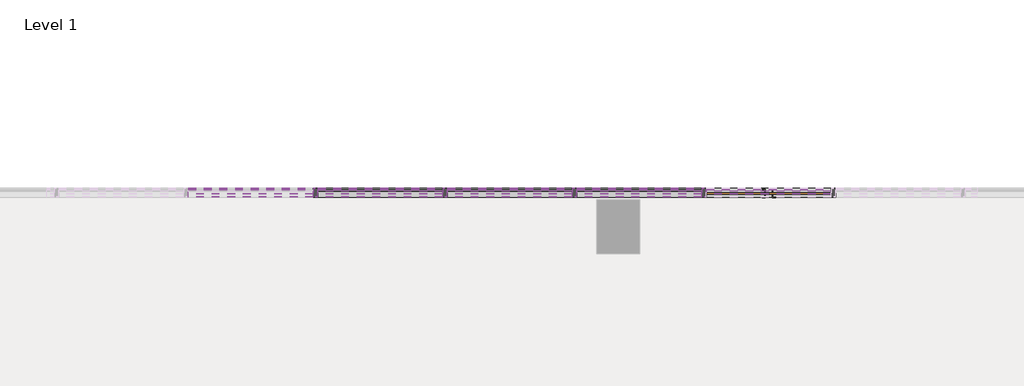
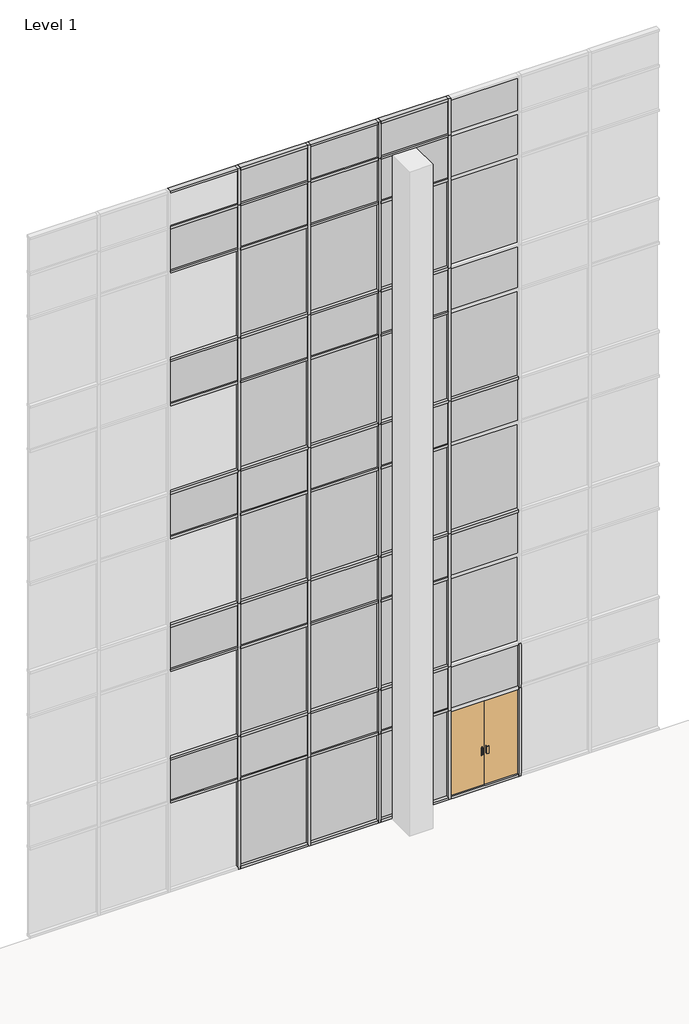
# One storey, part 13 of 23: 80 members, 48 plates, 1 door.
"""IFC4 building model written with IfcOpenShell, lengths in millimetres."""

from ifc_helpers import new_model, si_unit, origin, place, context, project, spatial, transform, mapped, element, save
from components import curtain_wall_dbl_glass_curtain_wall_dbl_glass_821f5a63, member_2b49869a, member_f92b8aa2, member_810865a4, member_f0fea5a5, member_6d5c3e5e, member_9764dd38, system_panel_glazed_14c75400, system_panel_solid_5dfe6f83, system_panel_solid_e25e2004, system_panel_solid_b7551183

model = new_model("IFC4")

# Units and contexts
model_context = context("Model", 3, world=origin())
ifc_project = project(units=[si_unit("LENGTHUNIT", "METRE", prefix="MILLI")], contexts=[model_context])

# Site, building, storey
site = spatial("IfcSite", under=ifc_project)
building = spatial("IfcBuilding", under=site)
storey = spatial("IfcBuildingStorey", under=building, Name="Level 1", Elevation=0.0)

# Door
placement = place(None, origin())
curtain_wall_dbl_glass_curtain_wall_dbl_glass_shape = curtain_wall_dbl_glass_curtain_wall_dbl_glass_821f5a63(model_context)
element("IfcDoor", 1, ObjectType="Curtain Wall Dbl Glass : Curtain Wall Dbl Glass", at=placement, inside=storey, context=model_context, shape_type="MappedRepresentation", body=[
    mapped(curtain_wall_dbl_glass_curtain_wall_dbl_glass_shape, transform((-42498.2373649, 10017.7896508, 63.5), x_axis=(1.0, 0.0, 0.0), y_axis=(0.0, 1.0, 0.0), z_axis=(0.0, 0.0, 1.0))),
])

# Members
member_shape = member_2b49869a(model_context)
element("IfcMember", 2, ObjectType="Rectangular Mullion : 2.5\" x 5\" rectangular", at=placement, inside=storey, context=model_context, shape_type="MappedRepresentation", body=[
    mapped(member_shape, transform((-45241.4373649, 10017.7896508, 2438.4), x_axis=(1.0, 0.0, 0.0), y_axis=(0.0, -1.0, 0.0), z_axis=(0.0, 0.0, -1.0))),
])
element("IfcMember", 3, ObjectType="Rectangular Mullion : 2.5\" x 5\" rectangular", at=placement, inside=storey, context=model_context, shape_type="MappedRepresentation", body=[
    mapped(member_shape, transform((-47070.2373649, 10017.7896508, 2438.4), x_axis=(1.0, 0.0, 0.0), y_axis=(0.0, -1.0, 0.0), z_axis=(0.0, 0.0, -1.0))),
])
element("IfcMember", 4, ObjectType="Rectangular Mullion : 2.5\" x 5\" rectangular", at=placement, inside=storey, context=model_context, shape_type="MappedRepresentation", body=[
    mapped(member_shape, transform((-48899.0373649, 10017.7896508, 2438.4), x_axis=(1.0, 0.0, 0.0), y_axis=(0.0, -1.0, 0.0), z_axis=(0.0, 0.0, -1.0))),
])
member_2_shape = member_f92b8aa2(model_context)
element("IfcMember", 5, ObjectType="Rectangular Mullion : 2.5\" x 5\" rectangular", at=placement, inside=storey, context=model_context, shape_type="MappedRepresentation", body=[
    mapped(member_2_shape, transform((-45241.4373649, 10017.7896508, 18288.0), x_axis=(1.0, 0.0, 0.0), y_axis=(0.0, -1.0, 0.0), z_axis=(0.0, 0.0, -1.0))),
])
element("IfcMember", 6, ObjectType="Rectangular Mullion : 2.5\" x 5\" rectangular", at=placement, inside=storey, context=model_context, shape_type="MappedRepresentation", body=[
    mapped(member_2_shape, transform((-47070.2373649, 10017.7896508, 18288.0), x_axis=(1.0, 0.0, 0.0), y_axis=(0.0, -1.0, 0.0), z_axis=(0.0, 0.0, -1.0))),
])
element("IfcMember", 7, ObjectType="Rectangular Mullion : 2.5\" x 5\" rectangular", at=placement, inside=storey, context=model_context, shape_type="MappedRepresentation", body=[
    mapped(member_2_shape, transform((-48899.0373649, 10017.7896508, 18288.0), x_axis=(1.0, 0.0, 0.0), y_axis=(0.0, -1.0, 0.0), z_axis=(0.0, 0.0, -1.0))),
])
element("IfcMember", 8, ObjectType="Rectangular Mullion : 2.5\" x 5\" rectangular", at=placement, inside=storey, context=model_context, shape_type="MappedRepresentation", body=[
    mapped(member_2_shape, transform((-43412.6373649, 10017.7896508, 18288.0), x_axis=(1.0, 0.0, 0.0), y_axis=(0.0, -1.0, 0.0), z_axis=(0.0, 0.0, -1.0))),
])
member_3_shape = member_810865a4(model_context)
element("IfcMember", 9, ObjectType="Rectangular Mullion : 2.5\" x 5\" rectangular", at=placement, inside=storey, context=model_context, shape_type="MappedRepresentation", body=[
    mapped(member_3_shape, transform((-43412.6373649, 10017.7896508, 10972.8), x_axis=(1.0, 0.0, 0.0), y_axis=(0.0, -1.0, 0.0), z_axis=(0.0, 0.0, -1.0))),
])
element("IfcMember", 10, ObjectType="Rectangular Mullion : 2.5\" x 5\" rectangular", at=placement, inside=storey, context=model_context, shape_type="MappedRepresentation", body=[
    mapped(member_3_shape, transform((-43412.6373649, 10017.7896508, 7315.2), x_axis=(1.0, 0.0, 0.0), y_axis=(0.0, -1.0, 0.0), z_axis=(0.0, 0.0, -1.0))),
])
element("IfcMember", 11, ObjectType="Rectangular Mullion : 2.5\" x 5\" rectangular", at=placement, inside=storey, context=model_context, shape_type="MappedRepresentation", body=[
    mapped(member_3_shape, transform((-43412.6373649, 10017.7896508, 3657.6), x_axis=(1.0, 0.0, 0.0), y_axis=(0.0, -1.0, 0.0), z_axis=(0.0, 0.0, -1.0))),
])
element("IfcMember", 12, ObjectType="Rectangular Mullion : 2.5\" x 5\" rectangular", at=placement, inside=storey, context=model_context, shape_type="MappedRepresentation", body=[
    mapped(member_3_shape, transform((-45241.4373649, 10017.7896508, 14630.4), x_axis=(1.0, 0.0, 0.0), y_axis=(0.0, -1.0, 0.0), z_axis=(0.0, 0.0, -1.0))),
])
element("IfcMember", 13, ObjectType="Rectangular Mullion : 2.5\" x 5\" rectangular", at=placement, inside=storey, context=model_context, shape_type="MappedRepresentation", body=[
    mapped(member_3_shape, transform((-45241.4373649, 10017.7896508, 10972.8), x_axis=(1.0, 0.0, 0.0), y_axis=(0.0, -1.0, 0.0), z_axis=(0.0, 0.0, -1.0))),
])
element("IfcMember", 14, ObjectType="Rectangular Mullion : 2.5\" x 5\" rectangular", at=placement, inside=storey, context=model_context, shape_type="MappedRepresentation", body=[
    mapped(member_3_shape, transform((-45241.4373649, 10017.7896508, 7315.2), x_axis=(1.0, 0.0, 0.0), y_axis=(0.0, -1.0, 0.0), z_axis=(0.0, 0.0, -1.0))),
])
element("IfcMember", 15, ObjectType="Rectangular Mullion : 2.5\" x 5\" rectangular", at=placement, inside=storey, context=model_context, shape_type="MappedRepresentation", body=[
    mapped(member_3_shape, transform((-45241.4373649, 10017.7896508, 3657.6), x_axis=(1.0, 0.0, 0.0), y_axis=(0.0, -1.0, 0.0), z_axis=(0.0, 0.0, -1.0))),
])
element("IfcMember", 16, ObjectType="Rectangular Mullion : 2.5\" x 5\" rectangular", at=placement, inside=storey, context=model_context, shape_type="MappedRepresentation", body=[
    mapped(member_3_shape, transform((-47070.2373649, 10017.7896508, 14630.4), x_axis=(1.0, 0.0, 0.0), y_axis=(0.0, -1.0, 0.0), z_axis=(0.0, 0.0, -1.0))),
])
element("IfcMember", 17, ObjectType="Rectangular Mullion : 2.5\" x 5\" rectangular", at=placement, inside=storey, context=model_context, shape_type="MappedRepresentation", body=[
    mapped(member_3_shape, transform((-47070.2373649, 10017.7896508, 10972.8), x_axis=(1.0, 0.0, 0.0), y_axis=(0.0, -1.0, 0.0), z_axis=(0.0, 0.0, -1.0))),
])
element("IfcMember", 18, ObjectType="Rectangular Mullion : 2.5\" x 5\" rectangular", at=placement, inside=storey, context=model_context, shape_type="MappedRepresentation", body=[
    mapped(member_3_shape, transform((-47070.2373649, 10017.7896508, 7315.2), x_axis=(1.0, 0.0, 0.0), y_axis=(0.0, -1.0, 0.0), z_axis=(0.0, 0.0, -1.0))),
])
element("IfcMember", 19, ObjectType="Rectangular Mullion : 2.5\" x 5\" rectangular", at=placement, inside=storey, context=model_context, shape_type="MappedRepresentation", body=[
    mapped(member_3_shape, transform((-47070.2373649, 10017.7896508, 3657.6), x_axis=(1.0, 0.0, 0.0), y_axis=(0.0, -1.0, 0.0), z_axis=(0.0, 0.0, -1.0))),
])
element("IfcMember", 20, ObjectType="Rectangular Mullion : 2.5\" x 5\" rectangular", at=placement, inside=storey, context=model_context, shape_type="MappedRepresentation", body=[
    mapped(member_3_shape, transform((-48899.0373649, 10017.7896508, 14630.4), x_axis=(1.0, 0.0, 0.0), y_axis=(0.0, -1.0, 0.0), z_axis=(0.0, 0.0, -1.0))),
])
element("IfcMember", 21, ObjectType="Rectangular Mullion : 2.5\" x 5\" rectangular", at=placement, inside=storey, context=model_context, shape_type="MappedRepresentation", body=[
    mapped(member_3_shape, transform((-48899.0373649, 10017.7896508, 10972.8), x_axis=(1.0, 0.0, 0.0), y_axis=(0.0, -1.0, 0.0), z_axis=(0.0, 0.0, -1.0))),
])
element("IfcMember", 22, ObjectType="Rectangular Mullion : 2.5\" x 5\" rectangular", at=placement, inside=storey, context=model_context, shape_type="MappedRepresentation", body=[
    mapped(member_3_shape, transform((-48899.0373649, 10017.7896508, 7315.2), x_axis=(1.0, 0.0, 0.0), y_axis=(0.0, -1.0, 0.0), z_axis=(0.0, 0.0, -1.0))),
])
element("IfcMember", 23, ObjectType="Rectangular Mullion : 2.5\" x 5\" rectangular", at=placement, inside=storey, context=model_context, shape_type="MappedRepresentation", body=[
    mapped(member_3_shape, transform((-48899.0373649, 10017.7896508, 3657.6), x_axis=(1.0, 0.0, 0.0), y_axis=(0.0, -1.0, 0.0), z_axis=(0.0, 0.0, -1.0))),
])
element("IfcMember", 24, ObjectType="Rectangular Mullion : 2.5\" x 5\" rectangular", at=placement, inside=storey, context=model_context, shape_type="MappedRepresentation", body=[
    mapped(member_3_shape, transform((-43412.6373649, 10017.7896508, 14630.4), x_axis=(1.0, 0.0, 0.0), y_axis=(0.0, -1.0, 0.0), z_axis=(0.0, 0.0, -1.0))),
])
member_4_shape = member_f0fea5a5(model_context)
element("IfcMember", 25, ObjectType="Rectangular Mullion : 2.5\" x 5\" rectangular", at=placement, inside=storey, context=model_context, shape_type="MappedRepresentation", body=[
    mapped(member_4_shape, transform((-45241.4373649, 10017.7896508, 0.0), x_axis=(1.0, 0.0, 0.0), y_axis=(0.0, -1.0, 0.0), z_axis=(0.0, 0.0, -1.0))),
])
element("IfcMember", 26, ObjectType="Rectangular Mullion : 2.5\" x 5\" rectangular", at=placement, inside=storey, context=model_context, shape_type="MappedRepresentation", body=[
    mapped(member_4_shape, transform((-47070.2373649, 10017.7896508, 0.0), x_axis=(1.0, 0.0, 0.0), y_axis=(0.0, -1.0, 0.0), z_axis=(0.0, 0.0, -1.0))),
])
element("IfcMember", 27, ObjectType="Rectangular Mullion : 2.5\" x 5\" rectangular", at=placement, inside=storey, context=model_context, shape_type="MappedRepresentation", body=[
    mapped(member_4_shape, transform((-48899.0373649, 10017.7896508, 0.0), x_axis=(1.0, 0.0, 0.0), y_axis=(0.0, -1.0, 0.0), z_axis=(0.0, 0.0, -1.0))),
])
element("IfcMember", 28, ObjectType="Rectangular Mullion : 2.5\" x 5\" rectangular", at=placement, inside=storey, context=model_context, shape_type="MappedRepresentation", body=[
    mapped(member_4_shape, transform((-41583.8373649, 10017.7896508, 0.0), x_axis=(1.0, 0.0, 0.0), y_axis=(0.0, -1.0, 0.0), z_axis=(0.0, 0.0, -1.0))),
])
element("IfcMember", 29, ObjectType="Rectangular Mullion : 2.5\" x 5\" rectangular", at=placement, inside=storey, context=model_context, shape_type="MappedRepresentation", body=[
    mapped(member_4_shape, transform((-43412.6373649, 10017.7896508, 0.0), x_axis=(1.0, 0.0, 0.0), y_axis=(0.0, -1.0, 0.0), z_axis=(0.0, 0.0, -1.0))),
])
element("IfcMember", 30, ObjectType="Rectangular Mullion : 2.5\" x 5\" rectangular", at=placement, inside=storey, context=model_context, shape_type="MappedRepresentation", body=[
    mapped(member_shape, transform((-41583.8373649, 10017.7896508, 2438.4), x_axis=(1.0, 0.0, 0.0), y_axis=(0.0, -1.0, 0.0), z_axis=(0.0, 0.0, -1.0))),
])
element("IfcMember", 31, ObjectType="Rectangular Mullion : 2.5\" x 5\" rectangular", at=placement, inside=storey, context=model_context, shape_type="MappedRepresentation", body=[
    mapped(member_shape, transform((-43412.6373649, 10017.7896508, 2438.4), x_axis=(1.0, 0.0, 0.0), y_axis=(0.0, -1.0, 0.0), z_axis=(0.0, 0.0, -1.0))),
])
member_5_shape = member_6d5c3e5e(model_context)
element("IfcMember", 32, ObjectType="Rectangular Mullion : 2.5\" x 5\" rectangular", at=placement, inside=storey, context=model_context, shape_type="MappedRepresentation", body=[
    mapped(member_5_shape, transform((-43444.3873649, 10017.7896508, 19304.0), x_axis=(0.0, 0.0, 1.0), y_axis=(0.0, -1.0, 0.0), z_axis=(1.0, 0.0, 0.0))),
])
element("IfcMember", 33, ObjectType="Rectangular Mullion : 2.5\" x 5\" rectangular", at=placement, inside=storey, context=model_context, shape_type="MappedRepresentation", body=[
    mapped(member_5_shape, transform((-45273.1873649, 10017.7896508, 19304.0), x_axis=(0.0, 0.0, 1.0), y_axis=(0.0, -1.0, 0.0), z_axis=(1.0, 0.0, 0.0))),
])
element("IfcMember", 34, ObjectType="Rectangular Mullion : 2.5\" x 5\" rectangular", at=placement, inside=storey, context=model_context, shape_type="MappedRepresentation", body=[
    mapped(member_5_shape, transform((-47101.9873649, 10017.7896508, 19304.0), x_axis=(0.0, 0.0, 1.0), y_axis=(0.0, -1.0, 0.0), z_axis=(1.0, 0.0, 0.0))),
])
element("IfcMember", 35, ObjectType="Rectangular Mullion : 2.5\" x 5\" rectangular", at=placement, inside=storey, context=model_context, shape_type="MappedRepresentation", body=[
    mapped(member_5_shape, transform((-48930.7873649, 10017.7896508, 19304.0), x_axis=(0.0, 0.0, 1.0), y_axis=(0.0, -1.0, 0.0), z_axis=(1.0, 0.0, 0.0))),
])
member_6_shape = member_9764dd38(model_context)
element("IfcMember", 36, ObjectType="Rectangular Mullion : 2.5\" x 5\" rectangular", at=placement, inside=storey, context=model_context, shape_type="MappedRepresentation", body=[
    mapped(member_6_shape, transform((-43444.3873649, 10017.7896508, 17068.8), x_axis=(0.0, 0.0, 1.0), y_axis=(0.0, -1.0, 0.0), z_axis=(1.0, 0.0, 0.0))),
])
element("IfcMember", 37, ObjectType="Rectangular Mullion : 2.5\" x 5\" rectangular", at=placement, inside=storey, context=model_context, shape_type="MappedRepresentation", body=[
    mapped(member_6_shape, transform((-45273.1873649, 10017.7896508, 17068.8), x_axis=(0.0, 0.0, 1.0), y_axis=(0.0, -1.0, 0.0), z_axis=(1.0, 0.0, 0.0))),
])
element("IfcMember", 38, ObjectType="Rectangular Mullion : 2.5\" x 5\" rectangular", at=placement, inside=storey, context=model_context, shape_type="MappedRepresentation", body=[
    mapped(member_6_shape, transform((-47101.9873649, 10017.7896508, 17068.8), x_axis=(0.0, 0.0, 1.0), y_axis=(0.0, -1.0, 0.0), z_axis=(1.0, 0.0, 0.0))),
])
element("IfcMember", 39, ObjectType="Rectangular Mullion : 2.5\" x 5\" rectangular", at=placement, inside=storey, context=model_context, shape_type="MappedRepresentation", body=[
    mapped(member_6_shape, transform((-48930.7873649, 10017.7896508, 17068.8), x_axis=(0.0, 0.0, 1.0), y_axis=(0.0, -1.0, 0.0), z_axis=(1.0, 0.0, 0.0))),
])
element("IfcMember", 40, ObjectType="Rectangular Mullion : 2.5\" x 5\" rectangular", at=placement, inside=storey, context=model_context, shape_type="MappedRepresentation", body=[
    mapped(member_6_shape, transform((-43444.3873649, 10017.7896508, 13411.2), x_axis=(0.0, 0.0, 1.0), y_axis=(0.0, -1.0, 0.0), z_axis=(1.0, 0.0, 0.0))),
])
element("IfcMember", 41, ObjectType="Rectangular Mullion : 2.5\" x 5\" rectangular", at=placement, inside=storey, context=model_context, shape_type="MappedRepresentation", body=[
    mapped(member_6_shape, transform((-45273.1873649, 10017.7896508, 13411.2), x_axis=(0.0, 0.0, 1.0), y_axis=(0.0, -1.0, 0.0), z_axis=(1.0, 0.0, 0.0))),
])
element("IfcMember", 42, ObjectType="Rectangular Mullion : 2.5\" x 5\" rectangular", at=placement, inside=storey, context=model_context, shape_type="MappedRepresentation", body=[
    mapped(member_6_shape, transform((-47101.9873649, 10017.7896508, 13411.2), x_axis=(0.0, 0.0, 1.0), y_axis=(0.0, -1.0, 0.0), z_axis=(1.0, 0.0, 0.0))),
])
element("IfcMember", 43, ObjectType="Rectangular Mullion : 2.5\" x 5\" rectangular", at=placement, inside=storey, context=model_context, shape_type="MappedRepresentation", body=[
    mapped(member_6_shape, transform((-48930.7873649, 10017.7896508, 13411.2), x_axis=(0.0, 0.0, 1.0), y_axis=(0.0, -1.0, 0.0), z_axis=(1.0, 0.0, 0.0))),
])
element("IfcMember", 44, ObjectType="Rectangular Mullion : 2.5\" x 5\" rectangular", at=placement, inside=storey, context=model_context, shape_type="MappedRepresentation", body=[
    mapped(member_6_shape, transform((-43444.3873649, 10017.7896508, 9753.6), x_axis=(0.0, 0.0, 1.0), y_axis=(0.0, -1.0, 0.0), z_axis=(1.0, 0.0, 0.0))),
])
element("IfcMember", 45, ObjectType="Rectangular Mullion : 2.5\" x 5\" rectangular", at=placement, inside=storey, context=model_context, shape_type="MappedRepresentation", body=[
    mapped(member_6_shape, transform((-45273.1873649, 10017.7896508, 9753.6), x_axis=(0.0, 0.0, 1.0), y_axis=(0.0, -1.0, 0.0), z_axis=(1.0, 0.0, 0.0))),
])
element("IfcMember", 46, ObjectType="Rectangular Mullion : 2.5\" x 5\" rectangular", at=placement, inside=storey, context=model_context, shape_type="MappedRepresentation", body=[
    mapped(member_6_shape, transform((-47101.9873649, 10017.7896508, 9753.6), x_axis=(0.0, 0.0, 1.0), y_axis=(0.0, -1.0, 0.0), z_axis=(1.0, 0.0, 0.0))),
])
element("IfcMember", 47, ObjectType="Rectangular Mullion : 2.5\" x 5\" rectangular", at=placement, inside=storey, context=model_context, shape_type="MappedRepresentation", body=[
    mapped(member_6_shape, transform((-48930.7873649, 10017.7896508, 9753.6), x_axis=(0.0, 0.0, 1.0), y_axis=(0.0, -1.0, 0.0), z_axis=(1.0, 0.0, 0.0))),
])
element("IfcMember", 48, ObjectType="Rectangular Mullion : 2.5\" x 5\" rectangular", at=placement, inside=storey, context=model_context, shape_type="MappedRepresentation", body=[
    mapped(member_6_shape, transform((-43444.3873649, 10017.7896508, 6096.0), x_axis=(0.0, 0.0, 1.0), y_axis=(0.0, -1.0, 0.0), z_axis=(1.0, 0.0, 0.0))),
])
element("IfcMember", 49, ObjectType="Rectangular Mullion : 2.5\" x 5\" rectangular", at=placement, inside=storey, context=model_context, shape_type="MappedRepresentation", body=[
    mapped(member_6_shape, transform((-45273.1873649, 10017.7896508, 6096.0), x_axis=(0.0, 0.0, 1.0), y_axis=(0.0, -1.0, 0.0), z_axis=(1.0, 0.0, 0.0))),
])
element("IfcMember", 50, ObjectType="Rectangular Mullion : 2.5\" x 5\" rectangular", at=placement, inside=storey, context=model_context, shape_type="MappedRepresentation", body=[
    mapped(member_6_shape, transform((-47101.9873649, 10017.7896508, 6096.0), x_axis=(0.0, 0.0, 1.0), y_axis=(0.0, -1.0, 0.0), z_axis=(1.0, 0.0, 0.0))),
])
element("IfcMember", 51, ObjectType="Rectangular Mullion : 2.5\" x 5\" rectangular", at=placement, inside=storey, context=model_context, shape_type="MappedRepresentation", body=[
    mapped(member_6_shape, transform((-48930.7873649, 10017.7896508, 6096.0), x_axis=(0.0, 0.0, 1.0), y_axis=(0.0, -1.0, 0.0), z_axis=(1.0, 0.0, 0.0))),
])
element("IfcMember", 52, ObjectType="Rectangular Mullion : 2.5\" x 5\" rectangular", at=placement, inside=storey, context=model_context, shape_type="MappedRepresentation", body=[
    mapped(member_6_shape, transform((-43444.3873649, 10017.7896508, 2470.15), x_axis=(0.0, 0.0, 1.0), y_axis=(0.0, -1.0, 0.0), z_axis=(1.0, 0.0, 0.0))),
])
element("IfcMember", 53, ObjectType="Rectangular Mullion : 2.5\" x 5\" rectangular", at=placement, inside=storey, context=model_context, shape_type="MappedRepresentation", body=[
    mapped(member_6_shape, transform((-45273.1873649, 10017.7896508, 2470.15), x_axis=(0.0, 0.0, 1.0), y_axis=(0.0, -1.0, 0.0), z_axis=(1.0, 0.0, 0.0))),
])
element("IfcMember", 54, ObjectType="Rectangular Mullion : 2.5\" x 5\" rectangular", at=placement, inside=storey, context=model_context, shape_type="MappedRepresentation", body=[
    mapped(member_6_shape, transform((-47101.9873649, 10017.7896508, 2470.15), x_axis=(0.0, 0.0, 1.0), y_axis=(0.0, -1.0, 0.0), z_axis=(1.0, 0.0, 0.0))),
])
element("IfcMember", 55, ObjectType="Rectangular Mullion : 2.5\" x 5\" rectangular", at=placement, inside=storey, context=model_context, shape_type="MappedRepresentation", body=[
    mapped(member_6_shape, transform((-48930.7873649, 10017.7896508, 2470.15), x_axis=(0.0, 0.0, 1.0), y_axis=(0.0, -1.0, 0.0), z_axis=(1.0, 0.0, 0.0))),
])
element("IfcMember", 56, ObjectType="Rectangular Mullion : 2.5\" x 5\" rectangular", at=placement, inside=storey, context=model_context, shape_type="MappedRepresentation", body=[
    mapped(member_5_shape, transform((-45209.6873649, 10017.7896508, 0.0), x_axis=(0.0, 0.0, -1.0), y_axis=(0.0, -1.0, 0.0), z_axis=(-1.0, 0.0, 0.0))),
])
element("IfcMember", 57, ObjectType="Rectangular Mullion : 2.5\" x 5\" rectangular", at=placement, inside=storey, context=model_context, shape_type="MappedRepresentation", body=[
    mapped(member_5_shape, transform((-47038.4873649, 10017.7896508, 0.0), x_axis=(0.0, 0.0, -1.0), y_axis=(0.0, -1.0, 0.0), z_axis=(-1.0, 0.0, 0.0))),
])
element("IfcMember", 58, ObjectType="Rectangular Mullion : 2.5\" x 5\" rectangular", at=placement, inside=storey, context=model_context, shape_type="MappedRepresentation", body=[
    mapped(member_5_shape, transform((-48867.2873649, 10017.7896508, 0.0), x_axis=(0.0, 0.0, -1.0), y_axis=(0.0, -1.0, 0.0), z_axis=(-1.0, 0.0, 0.0))),
])
element("IfcMember", 59, ObjectType="Rectangular Mullion : 2.5\" x 5\" rectangular", at=placement, inside=storey, context=model_context, shape_type="MappedRepresentation", body=[
    mapped(member_5_shape, transform((-43380.8873649, 10017.7896508, 0.0), x_axis=(0.0, 0.0, -1.0), y_axis=(0.0, -1.0, 0.0), z_axis=(-1.0, 0.0, 0.0))),
])
element("IfcMember", 60, ObjectType="Rectangular Mullion : 2.5\" x 5\" rectangular", at=placement, inside=storey, context=model_context, shape_type="MappedRepresentation", body=[
    mapped(member_6_shape, transform((-41615.5873649, 10017.7896508, 10972.8), x_axis=(0.0, 0.0, 1.0), y_axis=(0.0, -1.0, 0.0), z_axis=(1.0, 0.0, 0.0))),
])
element("IfcMember", 61, ObjectType="Rectangular Mullion : 2.5\" x 5\" rectangular", at=placement, inside=storey, context=model_context, shape_type="MappedRepresentation", body=[
    mapped(member_6_shape, transform((-43444.3873649, 10017.7896508, 10972.8), x_axis=(0.0, 0.0, 1.0), y_axis=(0.0, -1.0, 0.0), z_axis=(1.0, 0.0, 0.0))),
])
element("IfcMember", 62, ObjectType="Rectangular Mullion : 2.5\" x 5\" rectangular", at=placement, inside=storey, context=model_context, shape_type="MappedRepresentation", body=[
    mapped(member_6_shape, transform((-45273.1873649, 10017.7896508, 10972.8), x_axis=(0.0, 0.0, 1.0), y_axis=(0.0, -1.0, 0.0), z_axis=(1.0, 0.0, 0.0))),
])
element("IfcMember", 63, ObjectType="Rectangular Mullion : 2.5\" x 5\" rectangular", at=placement, inside=storey, context=model_context, shape_type="MappedRepresentation", body=[
    mapped(member_6_shape, transform((-47101.9873649, 10017.7896508, 10972.8), x_axis=(0.0, 0.0, 1.0), y_axis=(0.0, -1.0, 0.0), z_axis=(1.0, 0.0, 0.0))),
])
element("IfcMember", 64, ObjectType="Rectangular Mullion : 2.5\" x 5\" rectangular", at=placement, inside=storey, context=model_context, shape_type="MappedRepresentation", body=[
    mapped(member_6_shape, transform((-48930.7873649, 10017.7896508, 10972.8), x_axis=(0.0, 0.0, 1.0), y_axis=(0.0, -1.0, 0.0), z_axis=(1.0, 0.0, 0.0))),
])
element("IfcMember", 65, ObjectType="Rectangular Mullion : 2.5\" x 5\" rectangular", at=placement, inside=storey, context=model_context, shape_type="MappedRepresentation", body=[
    mapped(member_6_shape, transform((-41615.5873649, 10017.7896508, 7315.2), x_axis=(0.0, 0.0, 1.0), y_axis=(0.0, -1.0, 0.0), z_axis=(1.0, 0.0, 0.0))),
])
element("IfcMember", 66, ObjectType="Rectangular Mullion : 2.5\" x 5\" rectangular", at=placement, inside=storey, context=model_context, shape_type="MappedRepresentation", body=[
    mapped(member_6_shape, transform((-43444.3873649, 10017.7896508, 7315.2), x_axis=(0.0, 0.0, 1.0), y_axis=(0.0, -1.0, 0.0), z_axis=(1.0, 0.0, 0.0))),
])
element("IfcMember", 67, ObjectType="Rectangular Mullion : 2.5\" x 5\" rectangular", at=placement, inside=storey, context=model_context, shape_type="MappedRepresentation", body=[
    mapped(member_6_shape, transform((-45273.1873649, 10017.7896508, 7315.2), x_axis=(0.0, 0.0, 1.0), y_axis=(0.0, -1.0, 0.0), z_axis=(1.0, 0.0, 0.0))),
])
element("IfcMember", 68, ObjectType="Rectangular Mullion : 2.5\" x 5\" rectangular", at=placement, inside=storey, context=model_context, shape_type="MappedRepresentation", body=[
    mapped(member_6_shape, transform((-47101.9873649, 10017.7896508, 7315.2), x_axis=(0.0, 0.0, 1.0), y_axis=(0.0, -1.0, 0.0), z_axis=(1.0, 0.0, 0.0))),
])
element("IfcMember", 69, ObjectType="Rectangular Mullion : 2.5\" x 5\" rectangular", at=placement, inside=storey, context=model_context, shape_type="MappedRepresentation", body=[
    mapped(member_6_shape, transform((-48930.7873649, 10017.7896508, 7315.2), x_axis=(0.0, 0.0, 1.0), y_axis=(0.0, -1.0, 0.0), z_axis=(1.0, 0.0, 0.0))),
])
element("IfcMember", 70, ObjectType="Rectangular Mullion : 2.5\" x 5\" rectangular", at=placement, inside=storey, context=model_context, shape_type="MappedRepresentation", body=[
    mapped(member_6_shape, transform((-43444.3873649, 10017.7896508, 18288.0), x_axis=(0.0, 0.0, 1.0), y_axis=(0.0, -1.0, 0.0), z_axis=(1.0, 0.0, 0.0))),
])
element("IfcMember", 71, ObjectType="Rectangular Mullion : 2.5\" x 5\" rectangular", at=placement, inside=storey, context=model_context, shape_type="MappedRepresentation", body=[
    mapped(member_6_shape, transform((-45273.1873649, 10017.7896508, 18288.0), x_axis=(0.0, 0.0, 1.0), y_axis=(0.0, -1.0, 0.0), z_axis=(1.0, 0.0, 0.0))),
])
element("IfcMember", 72, ObjectType="Rectangular Mullion : 2.5\" x 5\" rectangular", at=placement, inside=storey, context=model_context, shape_type="MappedRepresentation", body=[
    mapped(member_6_shape, transform((-47101.9873649, 10017.7896508, 18288.0), x_axis=(0.0, 0.0, 1.0), y_axis=(0.0, -1.0, 0.0), z_axis=(1.0, 0.0, 0.0))),
])
element("IfcMember", 73, ObjectType="Rectangular Mullion : 2.5\" x 5\" rectangular", at=placement, inside=storey, context=model_context, shape_type="MappedRepresentation", body=[
    mapped(member_6_shape, transform((-48930.7873649, 10017.7896508, 18288.0), x_axis=(0.0, 0.0, 1.0), y_axis=(0.0, -1.0, 0.0), z_axis=(1.0, 0.0, 0.0))),
])
element("IfcMember", 74, ObjectType="Rectangular Mullion : 2.5\" x 5\" rectangular", at=placement, inside=storey, context=model_context, shape_type="MappedRepresentation", body=[
    mapped(member_6_shape, transform((-43444.3873649, 10017.7896508, 14630.4), x_axis=(0.0, 0.0, 1.0), y_axis=(0.0, -1.0, 0.0), z_axis=(1.0, 0.0, 0.0))),
])
element("IfcMember", 75, ObjectType="Rectangular Mullion : 2.5\" x 5\" rectangular", at=placement, inside=storey, context=model_context, shape_type="MappedRepresentation", body=[
    mapped(member_6_shape, transform((-45273.1873649, 10017.7896508, 14630.4), x_axis=(0.0, 0.0, 1.0), y_axis=(0.0, -1.0, 0.0), z_axis=(1.0, 0.0, 0.0))),
])
element("IfcMember", 76, ObjectType="Rectangular Mullion : 2.5\" x 5\" rectangular", at=placement, inside=storey, context=model_context, shape_type="MappedRepresentation", body=[
    mapped(member_6_shape, transform((-47101.9873649, 10017.7896508, 14630.4), x_axis=(0.0, 0.0, 1.0), y_axis=(0.0, -1.0, 0.0), z_axis=(1.0, 0.0, 0.0))),
])
element("IfcMember", 77, ObjectType="Rectangular Mullion : 2.5\" x 5\" rectangular", at=placement, inside=storey, context=model_context, shape_type="MappedRepresentation", body=[
    mapped(member_6_shape, transform((-48930.7873649, 10017.7896508, 14630.4), x_axis=(0.0, 0.0, 1.0), y_axis=(0.0, -1.0, 0.0), z_axis=(1.0, 0.0, 0.0))),
])
element("IfcMember", 78, ObjectType="Rectangular Mullion : 2.5\" x 5\" rectangular", at=placement, inside=storey, context=model_context, shape_type="MappedRepresentation", body=[
    mapped(member_6_shape, transform((-43444.3873649, 10017.7896508, 3657.6), x_axis=(0.0, 0.0, 1.0), y_axis=(0.0, -1.0, 0.0), z_axis=(1.0, 0.0, 0.0))),
])
element("IfcMember", 79, ObjectType="Rectangular Mullion : 2.5\" x 5\" rectangular", at=placement, inside=storey, context=model_context, shape_type="MappedRepresentation", body=[
    mapped(member_6_shape, transform((-48930.7873649, 10017.7896508, 3657.6), x_axis=(0.0, 0.0, 1.0), y_axis=(0.0, -1.0, 0.0), z_axis=(1.0, 0.0, 0.0))),
])
element("IfcMember", 80, ObjectType="Rectangular Mullion : 2.5\" x 5\" rectangular", at=placement, inside=storey, context=model_context, shape_type="MappedRepresentation", body=[
    mapped(member_6_shape, transform((-47101.9873649, 10017.7896508, 3657.6), x_axis=(0.0, 0.0, 1.0), y_axis=(0.0, -1.0, 0.0), z_axis=(1.0, 0.0, 0.0))),
])
element("IfcMember", 81, ObjectType="Rectangular Mullion : 2.5\" x 5\" rectangular", at=placement, inside=storey, context=model_context, shape_type="MappedRepresentation", body=[
    mapped(member_6_shape, transform((-45273.1873649, 10017.7896508, 3657.6), x_axis=(0.0, 0.0, 1.0), y_axis=(0.0, -1.0, 0.0), z_axis=(1.0, 0.0, 0.0))),
])

# Plates
system_panel_glazed_shape = system_panel_glazed_14c75400(model_context)
element("IfcPlate", 82, ObjectType="System Panel : Glazed", at=placement, inside=storey, context=model_context, shape_type="MappedRepresentation", body=[
    mapped(system_panel_glazed_shape, transform((-42498.2373649, 10017.7896508, 14662.15), x_axis=(1.0, 0.0, 0.0), y_axis=(0.0, 1.0, 0.0), z_axis=(0.0, 0.0, 1.0))),
])
element("IfcPlate", 83, ObjectType="System Panel : Glazed", at=placement, inside=storey, context=model_context, shape_type="MappedRepresentation", body=[
    mapped(system_panel_glazed_shape, transform((-44327.0373649, 10017.7896508, 14662.15), x_axis=(1.0, 0.0, 0.0), y_axis=(0.0, 1.0, 0.0), z_axis=(0.0, 0.0, 1.0))),
])
element("IfcPlate", 84, ObjectType="System Panel : Glazed", at=placement, inside=storey, context=model_context, shape_type="MappedRepresentation", body=[
    mapped(system_panel_glazed_shape, transform((-46155.8373649, 10017.7896508, 14662.15), x_axis=(1.0, 0.0, 0.0), y_axis=(0.0, 1.0, 0.0), z_axis=(0.0, 0.0, 1.0))),
])
element("IfcPlate", 85, ObjectType="System Panel : Glazed", at=placement, inside=storey, context=model_context, shape_type="MappedRepresentation", body=[
    mapped(system_panel_glazed_shape, transform((-47984.6373649, 10017.7896508, 14662.15), x_axis=(1.0, 0.0, 0.0), y_axis=(0.0, 1.0, 0.0), z_axis=(0.0, 0.0, 1.0))),
])
element("IfcPlate", 86, ObjectType="System Panel : Glazed", at=placement, inside=storey, context=model_context, shape_type="MappedRepresentation", body=[
    mapped(system_panel_glazed_shape, transform((-42498.2373649, 10017.7896508, 11004.55), x_axis=(1.0, 0.0, 0.0), y_axis=(0.0, 1.0, 0.0), z_axis=(0.0, 0.0, 1.0))),
])
element("IfcPlate", 87, ObjectType="System Panel : Glazed", at=placement, inside=storey, context=model_context, shape_type="MappedRepresentation", body=[
    mapped(system_panel_glazed_shape, transform((-44327.0373649, 10017.7896508, 11004.55), x_axis=(1.0, 0.0, 0.0), y_axis=(0.0, 1.0, 0.0), z_axis=(0.0, 0.0, 1.0))),
])
element("IfcPlate", 88, ObjectType="System Panel : Glazed", at=placement, inside=storey, context=model_context, shape_type="MappedRepresentation", body=[
    mapped(system_panel_glazed_shape, transform((-46155.8373649, 10017.7896508, 11004.55), x_axis=(1.0, 0.0, 0.0), y_axis=(0.0, 1.0, 0.0), z_axis=(0.0, 0.0, 1.0))),
])
element("IfcPlate", 89, ObjectType="System Panel : Glazed", at=placement, inside=storey, context=model_context, shape_type="MappedRepresentation", body=[
    mapped(system_panel_glazed_shape, transform((-47984.6373649, 10017.7896508, 11004.55), x_axis=(1.0, 0.0, 0.0), y_axis=(0.0, 1.0, 0.0), z_axis=(0.0, 0.0, 1.0))),
])
element("IfcPlate", 90, ObjectType="System Panel : Glazed", at=placement, inside=storey, context=model_context, shape_type="MappedRepresentation", body=[
    mapped(system_panel_glazed_shape, transform((-42498.2373649, 10017.7896508, 7346.95), x_axis=(1.0, 0.0, 0.0), y_axis=(0.0, 1.0, 0.0), z_axis=(0.0, 0.0, 1.0))),
])
element("IfcPlate", 91, ObjectType="System Panel : Glazed", at=placement, inside=storey, context=model_context, shape_type="MappedRepresentation", body=[
    mapped(system_panel_glazed_shape, transform((-44327.0373649, 10017.7896508, 7346.95), x_axis=(1.0, 0.0, 0.0), y_axis=(0.0, 1.0, 0.0), z_axis=(0.0, 0.0, 1.0))),
])
element("IfcPlate", 92, ObjectType="System Panel : Glazed", at=placement, inside=storey, context=model_context, shape_type="MappedRepresentation", body=[
    mapped(system_panel_glazed_shape, transform((-46155.8373649, 10017.7896508, 7346.95), x_axis=(1.0, 0.0, 0.0), y_axis=(0.0, 1.0, 0.0), z_axis=(0.0, 0.0, 1.0))),
])
element("IfcPlate", 93, ObjectType="System Panel : Glazed", at=placement, inside=storey, context=model_context, shape_type="MappedRepresentation", body=[
    mapped(system_panel_glazed_shape, transform((-47984.6373649, 10017.7896508, 7346.95), x_axis=(1.0, 0.0, 0.0), y_axis=(0.0, 1.0, 0.0), z_axis=(0.0, 0.0, 1.0))),
])
element("IfcPlate", 94, ObjectType="System Panel : Glazed", at=placement, inside=storey, context=model_context, shape_type="MappedRepresentation", body=[
    mapped(system_panel_glazed_shape, transform((-42498.2373649, 10017.7896508, 3689.35), x_axis=(1.0, 0.0, 0.0), y_axis=(0.0, 1.0, 0.0), z_axis=(0.0, 0.0, 1.0))),
])
element("IfcPlate", 95, ObjectType="System Panel : Glazed", at=placement, inside=storey, context=model_context, shape_type="MappedRepresentation", body=[
    mapped(system_panel_glazed_shape, transform((-44327.0373649, 10017.7896508, 3689.35), x_axis=(1.0, 0.0, 0.0), y_axis=(0.0, 1.0, 0.0), z_axis=(0.0, 0.0, 1.0))),
])
element("IfcPlate", 96, ObjectType="System Panel : Glazed", at=placement, inside=storey, context=model_context, shape_type="MappedRepresentation", body=[
    mapped(system_panel_glazed_shape, transform((-46155.8373649, 10017.7896508, 3689.35), x_axis=(1.0, 0.0, 0.0), y_axis=(0.0, 1.0, 0.0), z_axis=(0.0, 0.0, 1.0))),
])
element("IfcPlate", 97, ObjectType="System Panel : Glazed", at=placement, inside=storey, context=model_context, shape_type="MappedRepresentation", body=[
    mapped(system_panel_glazed_shape, transform((-47984.6373649, 10017.7896508, 3689.35), x_axis=(1.0, 0.0, 0.0), y_axis=(0.0, 1.0, 0.0), z_axis=(0.0, 0.0, 1.0))),
])
element("IfcPlate", 98, ObjectType="System Panel : Glazed", at=placement, inside=storey, context=model_context, shape_type="MappedRepresentation", body=[
    mapped(system_panel_glazed_shape, transform((-44327.0373649, 10017.7896508, 63.5), x_axis=(1.0, 0.0, 0.0), y_axis=(0.0, 1.0, 0.0), z_axis=(0.0, 0.0, 1.0))),
])
element("IfcPlate", 99, ObjectType="System Panel : Glazed", at=placement, inside=storey, context=model_context, shape_type="MappedRepresentation", body=[
    mapped(system_panel_glazed_shape, transform((-46155.8373649, 10017.7896508, 63.5), x_axis=(1.0, 0.0, 0.0), y_axis=(0.0, 1.0, 0.0), z_axis=(0.0, 0.0, 1.0))),
])
element("IfcPlate", 100, ObjectType="System Panel : Glazed", at=placement, inside=storey, context=model_context, shape_type="MappedRepresentation", body=[
    mapped(system_panel_glazed_shape, transform((-47984.6373649, 10017.7896508, 63.5), x_axis=(1.0, 0.0, 0.0), y_axis=(0.0, 1.0, 0.0), z_axis=(0.0, 0.0, 1.0))),
])
system_panel_solid_shape = system_panel_solid_5dfe6f83(model_context)
element("IfcPlate", 101, ObjectType="System Panel : Solid", at=placement, inside=storey, context=model_context, shape_type="MappedRepresentation", body=[
    mapped(system_panel_solid_shape, transform((-47984.6373649, 10017.7896508, 18319.75), x_axis=(1.0, 0.0, 0.0), y_axis=(0.0, 1.0, 0.0), z_axis=(0.0, 0.0, 1.0))),
])
element("IfcPlate", 102, ObjectType="System Panel : Solid", at=placement, inside=storey, context=model_context, shape_type="MappedRepresentation", body=[
    mapped(system_panel_solid_shape, transform((-46155.8373649, 10017.7896508, 18319.75), x_axis=(1.0, 0.0, 0.0), y_axis=(0.0, 1.0, 0.0), z_axis=(0.0, 0.0, 1.0))),
])
element("IfcPlate", 103, ObjectType="System Panel : Solid", at=placement, inside=storey, context=model_context, shape_type="MappedRepresentation", body=[
    mapped(system_panel_solid_shape, transform((-44327.0373649, 10017.7896508, 18319.75), x_axis=(1.0, 0.0, 0.0), y_axis=(0.0, 1.0, 0.0), z_axis=(0.0, 0.0, 1.0))),
])
element("IfcPlate", 104, ObjectType="System Panel : Solid", at=placement, inside=storey, context=model_context, shape_type="MappedRepresentation", body=[
    mapped(system_panel_solid_shape, transform((-42498.2373649, 10017.7896508, 18319.75), x_axis=(1.0, 0.0, 0.0), y_axis=(0.0, 1.0, 0.0), z_axis=(0.0, 0.0, 1.0))),
])
system_panel_solid_2_shape = system_panel_solid_e25e2004(model_context)
element("IfcPlate", 105, ObjectType="System Panel : Solid", at=placement, inside=storey, context=model_context, shape_type="MappedRepresentation", body=[
    mapped(system_panel_solid_2_shape, transform((-42498.2373649, 10017.7896508, 2470.15), x_axis=(1.0, 0.0, 0.0), y_axis=(0.0, 1.0, 0.0), z_axis=(0.0, 0.0, 1.0))),
])
element("IfcPlate", 106, ObjectType="System Panel : Solid", at=placement, inside=storey, context=model_context, shape_type="MappedRepresentation", body=[
    mapped(system_panel_solid_2_shape, transform((-42498.2373649, 10017.7896508, 17100.55), x_axis=(1.0, 0.0, 0.0), y_axis=(0.0, 1.0, 0.0), z_axis=(0.0, 0.0, 1.0))),
])
element("IfcPlate", 107, ObjectType="System Panel : Solid", at=placement, inside=storey, context=model_context, shape_type="MappedRepresentation", body=[
    mapped(system_panel_solid_2_shape, transform((-44327.0373649, 10017.7896508, 17100.55), x_axis=(1.0, 0.0, 0.0), y_axis=(0.0, 1.0, 0.0), z_axis=(0.0, 0.0, 1.0))),
])
element("IfcPlate", 108, ObjectType="System Panel : Solid", at=placement, inside=storey, context=model_context, shape_type="MappedRepresentation", body=[
    mapped(system_panel_solid_2_shape, transform((-46155.8373649, 10017.7896508, 17100.55), x_axis=(1.0, 0.0, 0.0), y_axis=(0.0, 1.0, 0.0), z_axis=(0.0, 0.0, 1.0))),
])
element("IfcPlate", 109, ObjectType="System Panel : Solid", at=placement, inside=storey, context=model_context, shape_type="MappedRepresentation", body=[
    mapped(system_panel_solid_2_shape, transform((-47984.6373649, 10017.7896508, 17100.55), x_axis=(1.0, 0.0, 0.0), y_axis=(0.0, 1.0, 0.0), z_axis=(0.0, 0.0, 1.0))),
])
element("IfcPlate", 110, ObjectType="System Panel : Solid", at=placement, inside=storey, context=model_context, shape_type="MappedRepresentation", body=[
    mapped(system_panel_solid_2_shape, transform((-49813.4373649, 10017.7896508, 17100.55), x_axis=(1.0, 0.0, 0.0), y_axis=(0.0, 1.0, 0.0), z_axis=(0.0, 0.0, 1.0))),
])
element("IfcPlate", 111, ObjectType="System Panel : Solid", at=placement, inside=storey, context=model_context, shape_type="MappedRepresentation", body=[
    mapped(system_panel_solid_2_shape, transform((-42498.2373649, 10017.7896508, 13442.95), x_axis=(1.0, 0.0, 0.0), y_axis=(0.0, 1.0, 0.0), z_axis=(0.0, 0.0, 1.0))),
])
element("IfcPlate", 112, ObjectType="System Panel : Solid", at=placement, inside=storey, context=model_context, shape_type="MappedRepresentation", body=[
    mapped(system_panel_solid_2_shape, transform((-44327.0373649, 10017.7896508, 13442.95), x_axis=(1.0, 0.0, 0.0), y_axis=(0.0, 1.0, 0.0), z_axis=(0.0, 0.0, 1.0))),
])
element("IfcPlate", 113, ObjectType="System Panel : Solid", at=placement, inside=storey, context=model_context, shape_type="MappedRepresentation", body=[
    mapped(system_panel_solid_2_shape, transform((-46155.8373649, 10017.7896508, 13442.95), x_axis=(1.0, 0.0, 0.0), y_axis=(0.0, 1.0, 0.0), z_axis=(0.0, 0.0, 1.0))),
])
element("IfcPlate", 114, ObjectType="System Panel : Solid", at=placement, inside=storey, context=model_context, shape_type="MappedRepresentation", body=[
    mapped(system_panel_solid_2_shape, transform((-47984.6373649, 10017.7896508, 13442.95), x_axis=(1.0, 0.0, 0.0), y_axis=(0.0, 1.0, 0.0), z_axis=(0.0, 0.0, 1.0))),
])
element("IfcPlate", 115, ObjectType="System Panel : Solid", at=placement, inside=storey, context=model_context, shape_type="MappedRepresentation", body=[
    mapped(system_panel_solid_2_shape, transform((-49813.4373649, 10017.7896508, 13442.95), x_axis=(1.0, 0.0, 0.0), y_axis=(0.0, 1.0, 0.0), z_axis=(0.0, 0.0, 1.0))),
])
element("IfcPlate", 116, ObjectType="System Panel : Solid", at=placement, inside=storey, context=model_context, shape_type="MappedRepresentation", body=[
    mapped(system_panel_solid_2_shape, transform((-42498.2373649, 10017.7896508, 9785.35), x_axis=(1.0, 0.0, 0.0), y_axis=(0.0, 1.0, 0.0), z_axis=(0.0, 0.0, 1.0))),
])
element("IfcPlate", 117, ObjectType="System Panel : Solid", at=placement, inside=storey, context=model_context, shape_type="MappedRepresentation", body=[
    mapped(system_panel_solid_2_shape, transform((-44327.0373649, 10017.7896508, 9785.35), x_axis=(1.0, 0.0, 0.0), y_axis=(0.0, 1.0, 0.0), z_axis=(0.0, 0.0, 1.0))),
])
element("IfcPlate", 118, ObjectType="System Panel : Solid", at=placement, inside=storey, context=model_context, shape_type="MappedRepresentation", body=[
    mapped(system_panel_solid_2_shape, transform((-46155.8373649, 10017.7896508, 9785.35), x_axis=(1.0, 0.0, 0.0), y_axis=(0.0, 1.0, 0.0), z_axis=(0.0, 0.0, 1.0))),
])
element("IfcPlate", 119, ObjectType="System Panel : Solid", at=placement, inside=storey, context=model_context, shape_type="MappedRepresentation", body=[
    mapped(system_panel_solid_2_shape, transform((-47984.6373649, 10017.7896508, 9785.35), x_axis=(1.0, 0.0, 0.0), y_axis=(0.0, 1.0, 0.0), z_axis=(0.0, 0.0, 1.0))),
])
element("IfcPlate", 120, ObjectType="System Panel : Solid", at=placement, inside=storey, context=model_context, shape_type="MappedRepresentation", body=[
    mapped(system_panel_solid_2_shape, transform((-49813.4373649, 10017.7896508, 9785.35), x_axis=(1.0, 0.0, 0.0), y_axis=(0.0, 1.0, 0.0), z_axis=(0.0, 0.0, 1.0))),
])
element("IfcPlate", 121, ObjectType="System Panel : Solid", at=placement, inside=storey, context=model_context, shape_type="MappedRepresentation", body=[
    mapped(system_panel_solid_2_shape, transform((-42498.2373649, 10017.7896508, 6127.75), x_axis=(1.0, 0.0, 0.0), y_axis=(0.0, 1.0, 0.0), z_axis=(0.0, 0.0, 1.0))),
])
element("IfcPlate", 122, ObjectType="System Panel : Solid", at=placement, inside=storey, context=model_context, shape_type="MappedRepresentation", body=[
    mapped(system_panel_solid_2_shape, transform((-44327.0373649, 10017.7896508, 6127.75), x_axis=(1.0, 0.0, 0.0), y_axis=(0.0, 1.0, 0.0), z_axis=(0.0, 0.0, 1.0))),
])
element("IfcPlate", 123, ObjectType="System Panel : Solid", at=placement, inside=storey, context=model_context, shape_type="MappedRepresentation", body=[
    mapped(system_panel_solid_2_shape, transform((-46155.8373649, 10017.7896508, 6127.75), x_axis=(1.0, 0.0, 0.0), y_axis=(0.0, 1.0, 0.0), z_axis=(0.0, 0.0, 1.0))),
])
element("IfcPlate", 124, ObjectType="System Panel : Solid", at=placement, inside=storey, context=model_context, shape_type="MappedRepresentation", body=[
    mapped(system_panel_solid_2_shape, transform((-47984.6373649, 10017.7896508, 6127.75), x_axis=(1.0, 0.0, 0.0), y_axis=(0.0, 1.0, 0.0), z_axis=(0.0, 0.0, 1.0))),
])
element("IfcPlate", 125, ObjectType="System Panel : Solid", at=placement, inside=storey, context=model_context, shape_type="MappedRepresentation", body=[
    mapped(system_panel_solid_2_shape, transform((-49813.4373649, 10017.7896508, 6127.75), x_axis=(1.0, 0.0, 0.0), y_axis=(0.0, 1.0, 0.0), z_axis=(0.0, 0.0, 1.0))),
])
system_panel_solid_3_shape = system_panel_solid_b7551183(model_context)
element("IfcPlate", 126, ObjectType="System Panel : Solid", at=placement, inside=storey, context=model_context, shape_type="MappedRepresentation", body=[
    mapped(system_panel_solid_3_shape, transform((-44327.0373649, 10017.7896508, 2501.9), x_axis=(1.0, 0.0, 0.0), y_axis=(0.0, 1.0, 0.0), z_axis=(0.0, 0.0, 1.0))),
])
element("IfcPlate", 127, ObjectType="System Panel : Solid", at=placement, inside=storey, context=model_context, shape_type="MappedRepresentation", body=[
    mapped(system_panel_solid_3_shape, transform((-46155.8373649, 10017.7896508, 2501.9), x_axis=(1.0, 0.0, 0.0), y_axis=(0.0, 1.0, 0.0), z_axis=(0.0, 0.0, 1.0))),
])
element("IfcPlate", 128, ObjectType="System Panel : Solid", at=placement, inside=storey, context=model_context, shape_type="MappedRepresentation", body=[
    mapped(system_panel_solid_3_shape, transform((-47984.6373649, 10017.7896508, 2501.9), x_axis=(1.0, 0.0, 0.0), y_axis=(0.0, 1.0, 0.0), z_axis=(0.0, 0.0, 1.0))),
])
element("IfcPlate", 129, ObjectType="System Panel : Solid", at=placement, inside=storey, context=model_context, shape_type="MappedRepresentation", body=[
    mapped(system_panel_solid_3_shape, transform((-49813.4373649, 10017.7896508, 2501.9), x_axis=(1.0, 0.0, 0.0), y_axis=(0.0, 1.0, 0.0), z_axis=(0.0, 0.0, 1.0))),
])

save(model, "model.ifc")
